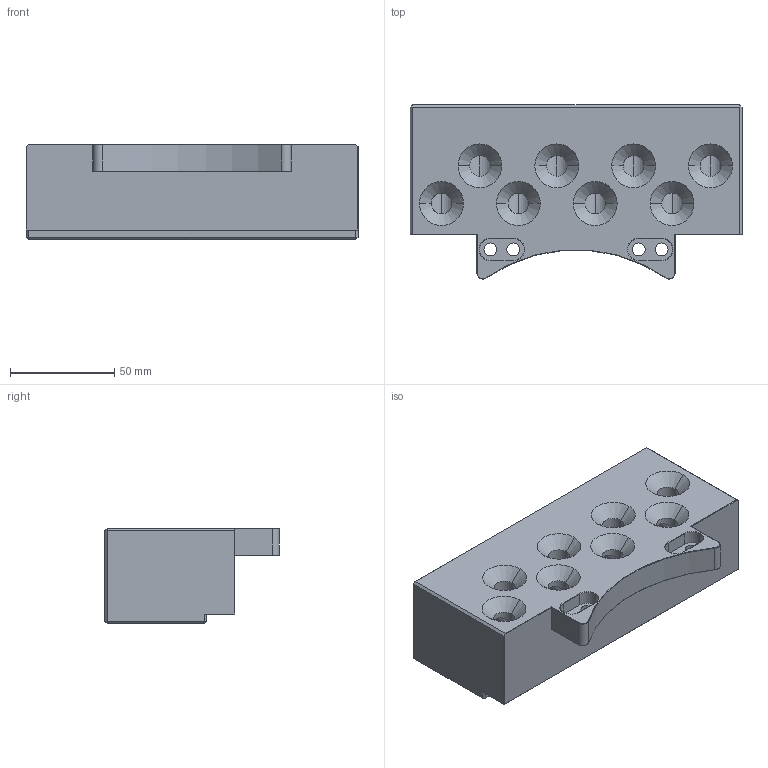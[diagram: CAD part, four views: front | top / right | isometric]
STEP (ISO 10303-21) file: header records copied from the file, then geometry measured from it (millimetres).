
FILE_DESCRIPTION (( 'STEP AP203' ), '1' );
FILE_NAME ('QCAM-08G38G.STEP', '2023-09-25T06:20:46', ( '' ), ( '' ), 'SwSTEP 2.0', 'SolidWorks 2018', '' );
FILE_SCHEMA (( 'CONFIG_CONTROL_DESIGN' ));
Length unit declared in the file: millimetre
Products named in the file (1): QCAM-08G38G
Bounding box: 159 x 83.38 x 45.6 mm (x, y, z)
Volume: 381812.9 mm3; surface area: 61524.1 mm2
Topology: 1 solids, 1 shells, 293 faces, 723 edges, 428 vertices
Faces by surface type: plane 106, cone 84, cylinder 78, bspline 23, sphere 2
Entity records: 13039 total; most frequent: CARTESIAN_POINT 6238, ORIENTED_EDGE 1406, DIRECTION 1342, EDGE_CURVE 703, AXIS2_PLACEMENT_3D 456, LINE 430, VECTOR 430, VERTEX_POINT 428
